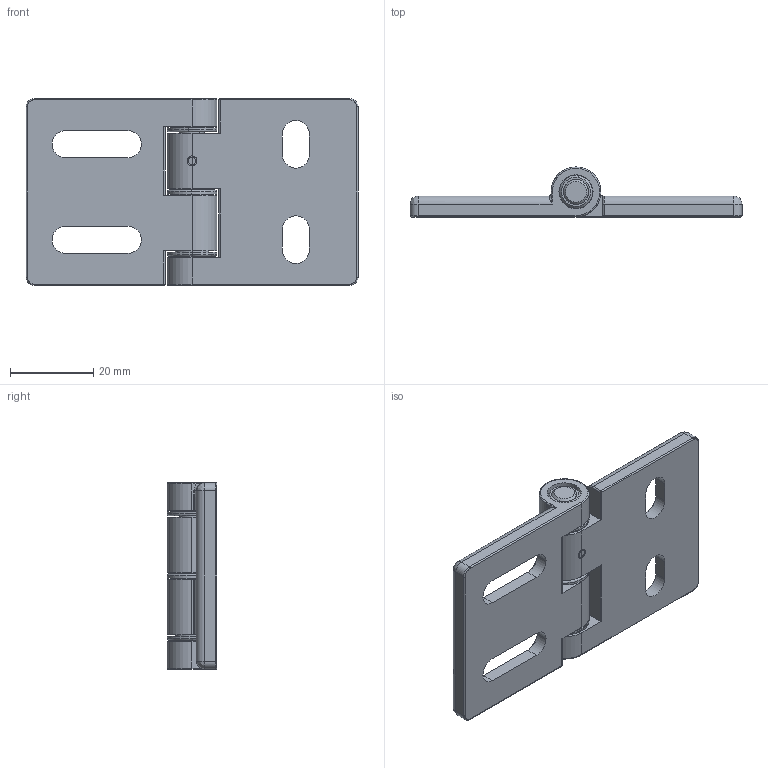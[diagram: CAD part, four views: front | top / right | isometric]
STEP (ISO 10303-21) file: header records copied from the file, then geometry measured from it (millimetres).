
FILE_DESCRIPTION (( 'STEP AP203' ), '1' );
FILE_NAME ('CL156.STEP', '2014-02-22T03:14:30', ( 'SkyUser' ), ( 'China' ), 'SwSTEP 2.0', 'SolidWorks 2010', '' );
FILE_SCHEMA (( 'CONFIG_CONTROL_DESIGN' ));
Length unit declared in the file: millimetre
Products named in the file (6): CL156; Hinge_Pin; Hinge_2; Hinge; Hinge_杶; 弹性圆柱销直槽重型3X4_弹性圆柱销直槽重型3X4
Assembly tree (7 placements, depth 2):
  CL156
    Hinge_杶  x3
    弹性圆柱销直槽重型3X4_弹性圆柱销直槽重型3X4
    Hinge
    Hinge_2
    Hinge_Pin
Bounding box: 80 x 12 x 45 mm (x, y, z)
Volume: 17078.4 mm3; surface area: 12663.2 mm2
Topology: 7 solids, 7 shells, 213 faces, 510 edges, 310 vertices
Faces by surface type: cylinder 104, plane 55, bspline 38, cone 16
Entity records: 7255 total; most frequent: CARTESIAN_POINT 2239, DIRECTION 942, ORIENTED_EDGE 900, EDGE_CURVE 450, AXIS2_PLACEMENT_3D 367, VERTEX_POINT 278, EDGE_LOOP 210, LINE 208
